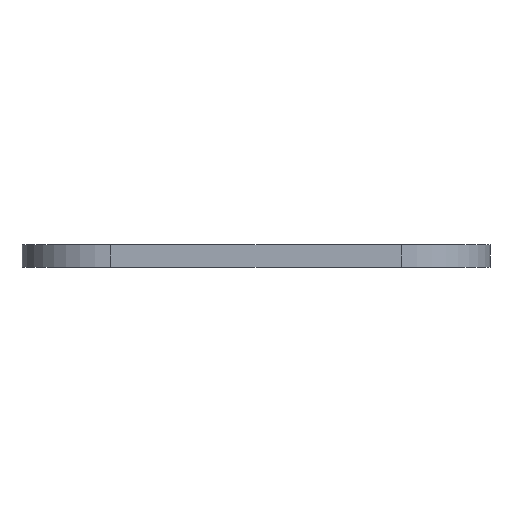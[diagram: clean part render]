
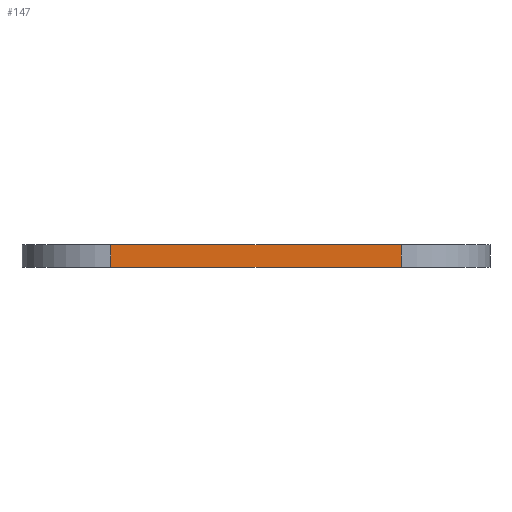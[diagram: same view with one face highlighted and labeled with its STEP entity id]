
A CAD part, front view. The second image highlights one B-rep face of the part: STEP entity #147.
In plain terms, the highlighted planar face has unit normal (0, -1, 0).
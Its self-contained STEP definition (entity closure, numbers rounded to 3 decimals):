
#21 = EDGE_CURVE('',#22,#24,#26,.T.);
#22 = VERTEX_POINT('',#23);
#23 = CARTESIAN_POINT('',(14.8,1.2,24.));
#24 = VERTEX_POINT('',#25);
#25 = CARTESIAN_POINT('',(14.8,1.2,22.6));
#26 = SURFACE_CURVE('',#27,(#31,#43),.PCURVE_S1.);
#27 = LINE('',#28,#29);
#28 = CARTESIAN_POINT('',(14.8,1.2,24.));
#29 = VECTOR('',#30,1.);
#30 = DIRECTION('',(0.,0.,-1.));
#31 = PCURVE('',#32,#37);
#32 = CYLINDRICAL_SURFACE('',#33,5.6);
#33 = AXIS2_PLACEMENT_3D('',#34,#35,#36);
#34 = CARTESIAN_POINT('',(14.8,6.8,24.));
#35 = DIRECTION('',(0.,-0.,1.));
#36 = DIRECTION('',(0.,-1.,-0.));
#37 = DEFINITIONAL_REPRESENTATION('',(#38),#42);
#38 = LINE('',#39,#40);
#39 = CARTESIAN_POINT('',(-6.283,0.));
#40 = VECTOR('',#41,1.);
#41 = DIRECTION('',(-0.,-1.));
#42 = ( GEOMETRIC_REPRESENTATION_CONTEXT(2) 
PARAMETRIC_REPRESENTATION_CONTEXT() REPRESENTATION_CONTEXT('2D SPACE',''
  ) );
#43 = PCURVE('',#44,#49);
#44 = PLANE('',#45);
#45 = AXIS2_PLACEMENT_3D('',#46,#47,#48);
#46 = CARTESIAN_POINT('',(14.8,1.2,24.));
#47 = DIRECTION('',(0.,-1.,0.));
#48 = DIRECTION('',(1.,0.,0.));
#49 = DEFINITIONAL_REPRESENTATION('',(#50),#54);
#50 = LINE('',#51,#52);
#51 = CARTESIAN_POINT('',(0.,0.));
#52 = VECTOR('',#53,1.);
#53 = DIRECTION('',(0.,-1.));
#54 = ( GEOMETRIC_REPRESENTATION_CONTEXT(2) 
PARAMETRIC_REPRESENTATION_CONTEXT() REPRESENTATION_CONTEXT('2D SPACE',''
  ) );
#73 = PLANE('',#74);
#74 = AXIS2_PLACEMENT_3D('',#75,#76,#77);
#75 = CARTESIAN_POINT('',(24.,45.,22.6));
#76 = DIRECTION('',(0.,0.,1.));
#77 = DIRECTION('',(1.,0.,-0.));
#132 = PLANE('',#133);
#133 = AXIS2_PLACEMENT_3D('',#134,#135,#136);
#134 = CARTESIAN_POINT('',(24.,45.,24.));
#135 = DIRECTION('',(0.,0.,1.));
#136 = DIRECTION('',(1.,0.,-0.));
#147 = ADVANCED_FACE('',(#148),#44,.T.);
#148 = FACE_BOUND('',#149,.T.);
#149 = EDGE_LOOP('',(#150,#151,#174,#202));
#150 = ORIENTED_EDGE('',*,*,#21,.T.);
#151 = ORIENTED_EDGE('',*,*,#152,.T.);
#152 = EDGE_CURVE('',#24,#153,#155,.T.);
#153 = VERTEX_POINT('',#154);
#154 = CARTESIAN_POINT('',(33.2,1.2,22.6));
#155 = SURFACE_CURVE('',#156,(#160,#167),.PCURVE_S1.);
#156 = LINE('',#157,#158);
#157 = CARTESIAN_POINT('',(12.8,1.2,22.6));
#158 = VECTOR('',#159,1.);
#159 = DIRECTION('',(1.,0.,0.));
#160 = PCURVE('',#44,#161);
#161 = DEFINITIONAL_REPRESENTATION('',(#162),#166);
#162 = LINE('',#163,#164);
#163 = CARTESIAN_POINT('',(-2.,-1.4));
#164 = VECTOR('',#165,1.);
#165 = DIRECTION('',(1.,0.));
#166 = ( GEOMETRIC_REPRESENTATION_CONTEXT(2) 
PARAMETRIC_REPRESENTATION_CONTEXT() REPRESENTATION_CONTEXT('2D SPACE',''
  ) );
#167 = PCURVE('',#73,#168);
#168 = DEFINITIONAL_REPRESENTATION('',(#169),#173);
#169 = LINE('',#170,#171);
#170 = CARTESIAN_POINT('',(-11.2,-43.8));
#171 = VECTOR('',#172,1.);
#172 = DIRECTION('',(1.,0.));
#173 = ( GEOMETRIC_REPRESENTATION_CONTEXT(2) 
PARAMETRIC_REPRESENTATION_CONTEXT() REPRESENTATION_CONTEXT('2D SPACE',''
  ) );
#174 = ORIENTED_EDGE('',*,*,#175,.F.);
#175 = EDGE_CURVE('',#176,#153,#178,.T.);
#176 = VERTEX_POINT('',#177);
#177 = CARTESIAN_POINT('',(33.2,1.2,24.));
#178 = SURFACE_CURVE('',#179,(#183,#190),.PCURVE_S1.);
#179 = LINE('',#180,#181);
#180 = CARTESIAN_POINT('',(33.2,1.2,24.));
#181 = VECTOR('',#182,1.);
#182 = DIRECTION('',(0.,0.,-1.));
#183 = PCURVE('',#44,#184);
#184 = DEFINITIONAL_REPRESENTATION('',(#185),#189);
#185 = LINE('',#186,#187);
#186 = CARTESIAN_POINT('',(18.4,0.));
#187 = VECTOR('',#188,1.);
#188 = DIRECTION('',(0.,-1.));
#189 = ( GEOMETRIC_REPRESENTATION_CONTEXT(2) 
PARAMETRIC_REPRESENTATION_CONTEXT() REPRESENTATION_CONTEXT('2D SPACE',''
  ) );
#190 = PCURVE('',#191,#196);
#191 = CYLINDRICAL_SURFACE('',#192,5.6);
#192 = AXIS2_PLACEMENT_3D('',#193,#194,#195);
#193 = CARTESIAN_POINT('',(33.2,6.8,24.));
#194 = DIRECTION('',(0.,-0.,1.));
#195 = DIRECTION('',(0.,-1.,-0.));
#196 = DEFINITIONAL_REPRESENTATION('',(#197),#201);
#197 = LINE('',#198,#199);
#198 = CARTESIAN_POINT('',(6.283,0.));
#199 = VECTOR('',#200,1.);
#200 = DIRECTION('',(0.,-1.));
#201 = ( GEOMETRIC_REPRESENTATION_CONTEXT(2) 
PARAMETRIC_REPRESENTATION_CONTEXT() REPRESENTATION_CONTEXT('2D SPACE',''
  ) );
#202 = ORIENTED_EDGE('',*,*,#203,.F.);
#203 = EDGE_CURVE('',#22,#176,#204,.T.);
#204 = SURFACE_CURVE('',#205,(#209,#216),.PCURVE_S1.);
#205 = LINE('',#206,#207);
#206 = CARTESIAN_POINT('',(12.8,1.2,24.));
#207 = VECTOR('',#208,1.);
#208 = DIRECTION('',(1.,0.,0.));
#209 = PCURVE('',#44,#210);
#210 = DEFINITIONAL_REPRESENTATION('',(#211),#215);
#211 = LINE('',#212,#213);
#212 = CARTESIAN_POINT('',(-2.,0.));
#213 = VECTOR('',#214,1.);
#214 = DIRECTION('',(1.,0.));
#215 = ( GEOMETRIC_REPRESENTATION_CONTEXT(2) 
PARAMETRIC_REPRESENTATION_CONTEXT() REPRESENTATION_CONTEXT('2D SPACE',''
  ) );
#216 = PCURVE('',#132,#217);
#217 = DEFINITIONAL_REPRESENTATION('',(#218),#222);
#218 = LINE('',#219,#220);
#219 = CARTESIAN_POINT('',(-11.2,-43.8));
#220 = VECTOR('',#221,1.);
#221 = DIRECTION('',(1.,0.));
#222 = ( GEOMETRIC_REPRESENTATION_CONTEXT(2) 
PARAMETRIC_REPRESENTATION_CONTEXT() REPRESENTATION_CONTEXT('2D SPACE',''
  ) );
